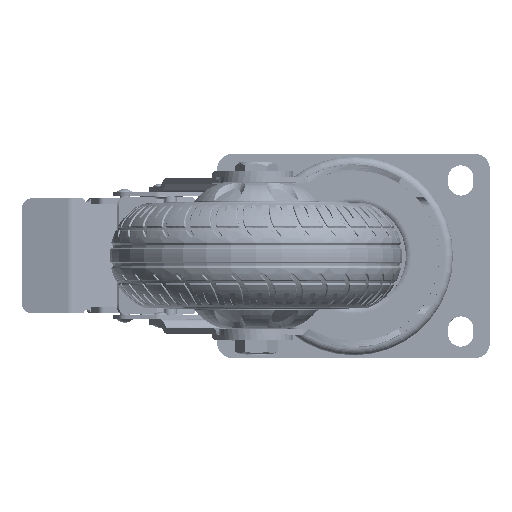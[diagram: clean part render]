
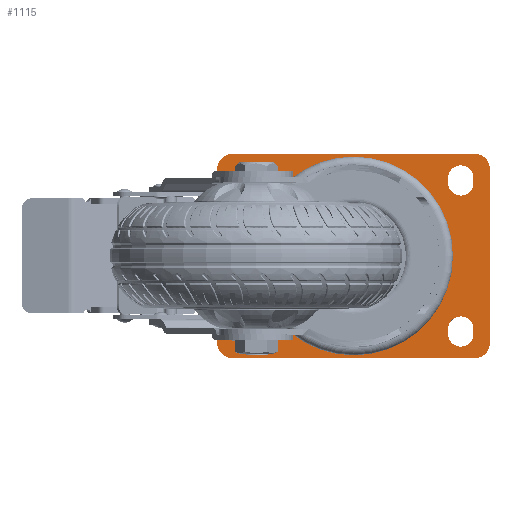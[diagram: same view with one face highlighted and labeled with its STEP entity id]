
A CAD part, top view. The second image highlights one B-rep face of the part: STEP entity #1115.
In plain terms, the highlighted planar face has unit normal (0, 0, 1).
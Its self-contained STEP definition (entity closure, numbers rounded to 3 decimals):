
#172=CARTESIAN_POINT('',(62.,-44.5,4.5));
#173=DIRECTION('',(0.,0.,1.));
#174=DIRECTION('',(0.,-1.,0.));
#175=AXIS2_PLACEMENT_3D('',#172,#173,#174);
#177=DIRECTION('',(1.,0.,0.));
#178=VECTOR('',#177,124.);
#179=CARTESIAN_POINT('',(-62.,-52.5,4.5));
#180=LINE('',#179,#178);
#181=CARTESIAN_POINT('',(-62.,-44.5,4.5));
#182=DIRECTION('',(0.,0.,1.));
#183=DIRECTION('',(-1.,0.,0.));
#184=AXIS2_PLACEMENT_3D('',#181,#182,#183);
#186=DIRECTION('',(0.,-1.,0.));
#187=VECTOR('',#186,89.);
#188=CARTESIAN_POINT('',(-70.,44.5,4.5));
#189=LINE('',#188,#187);
#190=CARTESIAN_POINT('',(-62.,44.5,4.5));
#191=DIRECTION('',(0.,0.,1.));
#192=DIRECTION('',(0.,1.,0.));
#193=AXIS2_PLACEMENT_3D('',#190,#191,#192);
#195=DIRECTION('',(-1.,0.,0.));
#196=VECTOR('',#195,124.);
#197=CARTESIAN_POINT('',(62.,52.5,4.5));
#198=LINE('',#197,#196);
#199=CARTESIAN_POINT('',(62.,44.5,4.5));
#200=DIRECTION('',(0.,0.,1.));
#201=DIRECTION('',(1.,0.,0.));
#202=AXIS2_PLACEMENT_3D('',#199,#200,#201);
#204=DIRECTION('',(0.,1.,0.));
#205=VECTOR('',#204,89.);
#206=CARTESIAN_POINT('',(70.,-44.5,4.5));
#207=LINE('',#206,#205);
#208=CARTESIAN_POINT('',(55.,40.,4.5));
#209=DIRECTION('',(0.,0.,-1.));
#210=DIRECTION('',(-1.,0.,0.));
#211=AXIS2_PLACEMENT_3D('',#208,#209,#210);
#213=DIRECTION('',(0.,1.,0.));
#214=VECTOR('',#213,2.5);
#215=CARTESIAN_POINT('',(48.5,37.5,4.5));
#216=LINE('',#215,#214);
#217=CARTESIAN_POINT('',(55.,37.5,4.5));
#218=DIRECTION('',(0.,0.,-1.));
#219=DIRECTION('',(1.,0.,0.));
#220=AXIS2_PLACEMENT_3D('',#217,#218,#219);
#222=DIRECTION('',(0.,-1.,0.));
#223=VECTOR('',#222,2.5);
#224=CARTESIAN_POINT('',(61.5,40.,4.5));
#225=LINE('',#224,#223);
#226=CARTESIAN_POINT('',(55.,-40.,4.5));
#227=DIRECTION('',(0.,0.,-1.));
#228=DIRECTION('',(1.,0.,0.));
#229=AXIS2_PLACEMENT_3D('',#226,#227,#228);
#231=DIRECTION('',(0.,-1.,0.));
#232=VECTOR('',#231,2.5);
#233=CARTESIAN_POINT('',(61.5,-37.5,4.5));
#234=LINE('',#233,#232);
#235=CARTESIAN_POINT('',(55.,-37.5,4.5));
#236=DIRECTION('',(0.,0.,-1.));
#237=DIRECTION('',(-1.,0.,0.));
#238=AXIS2_PLACEMENT_3D('',#235,#236,#237);
#240=DIRECTION('',(0.,1.,0.));
#241=VECTOR('',#240,2.5);
#242=CARTESIAN_POINT('',(48.5,-40.,4.5));
#243=LINE('',#242,#241);
#244=DIRECTION('',(0.,1.,0.));
#245=VECTOR('',#244,2.5);
#246=CARTESIAN_POINT('',(-61.5,-40.,4.5));
#247=LINE('',#246,#245);
#248=CARTESIAN_POINT('',(-55.,-40.,4.5));
#249=DIRECTION('',(0.,0.,-1.));
#250=DIRECTION('',(1.,0.,0.));
#251=AXIS2_PLACEMENT_3D('',#248,#249,#250);
#253=DIRECTION('',(0.,-1.,0.));
#254=VECTOR('',#253,2.5);
#255=CARTESIAN_POINT('',(-48.5,-37.5,4.5));
#256=LINE('',#255,#254);
#257=CARTESIAN_POINT('',(-55.,-37.5,4.5));
#258=DIRECTION('',(0.,0.,-1.));
#259=DIRECTION('',(-1.,0.,0.));
#260=AXIS2_PLACEMENT_3D('',#257,#258,#259);
#262=DIRECTION('',(0.,1.,0.));
#263=VECTOR('',#262,2.5);
#264=CARTESIAN_POINT('',(-61.5,37.5,4.5));
#265=LINE('',#264,#263);
#266=CARTESIAN_POINT('',(-55.,37.5,4.5));
#267=DIRECTION('',(0.,0.,-1.));
#268=DIRECTION('',(1.,0.,0.));
#269=AXIS2_PLACEMENT_3D('',#266,#267,#268);
#271=DIRECTION('',(0.,-1.,0.));
#272=VECTOR('',#271,2.5);
#273=CARTESIAN_POINT('',(-48.5,40.,4.5));
#274=LINE('',#273,#272);
#275=CARTESIAN_POINT('',(-55.,40.,4.5));
#276=DIRECTION('',(0.,0.,-1.));
#277=DIRECTION('',(-1.,0.,0.));
#278=AXIS2_PLACEMENT_3D('',#275,#276,#277);
#290=CARTESIAN_POINT('',(0.,0.,4.5));
#291=DIRECTION('',(0.,0.,1.));
#292=DIRECTION('',(1.,0.,0.));
#293=AXIS2_PLACEMENT_3D('',#290,#291,#292);
#295=CARTESIAN_POINT('',(0.,0.,4.5));
#296=DIRECTION('',(0.,0.,1.));
#297=DIRECTION('',(-1.,0.,0.));
#298=AXIS2_PLACEMENT_3D('',#295,#296,#297);
#714=CARTESIAN_POINT('',(62.,-52.5,4.5));
#715=CARTESIAN_POINT('',(70.,-44.5,4.5));
#716=VERTEX_POINT('',#714);
#717=VERTEX_POINT('',#715);
#718=CARTESIAN_POINT('',(70.,44.5,4.5));
#719=VERTEX_POINT('',#718);
#720=CARTESIAN_POINT('',(62.,52.5,4.5));
#721=VERTEX_POINT('',#720);
#722=CARTESIAN_POINT('',(-62.,52.5,4.5));
#723=VERTEX_POINT('',#722);
#724=CARTESIAN_POINT('',(-70.,44.5,4.5));
#725=VERTEX_POINT('',#724);
#726=CARTESIAN_POINT('',(-70.,-44.5,4.5));
#727=VERTEX_POINT('',#726);
#728=CARTESIAN_POINT('',(-62.,-52.5,4.5));
#729=VERTEX_POINT('',#728);
#730=CARTESIAN_POINT('',(48.5,40.,4.5));
#731=CARTESIAN_POINT('',(61.5,40.,4.5));
#732=VERTEX_POINT('',#730);
#733=VERTEX_POINT('',#731);
#734=CARTESIAN_POINT('',(61.5,37.5,4.5));
#735=VERTEX_POINT('',#734);
#736=CARTESIAN_POINT('',(48.5,37.5,4.5));
#737=VERTEX_POINT('',#736);
#738=CARTESIAN_POINT('',(61.5,-40.,4.5));
#739=CARTESIAN_POINT('',(48.5,-40.,4.5));
#740=VERTEX_POINT('',#738);
#741=VERTEX_POINT('',#739);
#742=CARTESIAN_POINT('',(48.5,-37.5,4.5));
#743=VERTEX_POINT('',#742);
#744=CARTESIAN_POINT('',(61.5,-37.5,4.5));
#745=VERTEX_POINT('',#744);
#746=CARTESIAN_POINT('',(-61.5,-40.,4.5));
#747=CARTESIAN_POINT('',(-61.5,-37.5,4.5));
#748=VERTEX_POINT('',#746);
#749=VERTEX_POINT('',#747);
#750=CARTESIAN_POINT('',(-48.5,-37.5,4.5));
#751=VERTEX_POINT('',#750);
#752=CARTESIAN_POINT('',(-48.5,-40.,4.5));
#753=VERTEX_POINT('',#752);
#754=CARTESIAN_POINT('',(-61.5,37.5,4.5));
#755=CARTESIAN_POINT('',(-61.5,40.,4.5));
#756=VERTEX_POINT('',#754);
#757=VERTEX_POINT('',#755);
#758=CARTESIAN_POINT('',(-48.5,40.,4.5));
#759=VERTEX_POINT('',#758);
#760=CARTESIAN_POINT('',(-48.5,37.5,4.5));
#761=VERTEX_POINT('',#760);
#818=CARTESIAN_POINT('',(43.1,0.,4.5));
#819=CARTESIAN_POINT('',(-43.1,0.,4.5));
#820=VERTEX_POINT('',#818);
#821=VERTEX_POINT('',#819);
#1054=CARTESIAN_POINT('',(0.,0.,4.5));
#1055=DIRECTION('',(0.,0.,1.));
#1056=DIRECTION('',(1.,0.,0.));
#1057=AXIS2_PLACEMENT_3D('',#1054,#1055,#1056);
#1058=PLANE('',#1057);
#1059=ORIENTED_EDGE('',*,*,#950,.F.);
#1060=ORIENTED_EDGE('',*,*,#965,.F.);
#1061=ORIENTED_EDGE('',*,*,#979,.F.);
#1062=ORIENTED_EDGE('',*,*,#993,.F.);
#1063=ORIENTED_EDGE('',*,*,#1007,.F.);
#1064=ORIENTED_EDGE('',*,*,#1021,.F.);
#1065=ORIENTED_EDGE('',*,*,#1035,.F.);
#1066=ORIENTED_EDGE('',*,*,#1048,.F.);
#1067=EDGE_LOOP('',(#1059,#1060,#1061,#1062,#1063,#1064,#1065,#1066));
#1068=FACE_OUTER_BOUND('',#1067,.F.);
#1070=ORIENTED_EDGE('',*,*,#1069,.F.);
#1072=ORIENTED_EDGE('',*,*,#1071,.F.);
#1074=ORIENTED_EDGE('',*,*,#1073,.F.);
#1076=ORIENTED_EDGE('',*,*,#1075,.F.);
#1077=EDGE_LOOP('',(#1070,#1072,#1074,#1076));
#1078=FACE_BOUND('',#1077,.F.);
#1080=ORIENTED_EDGE('',*,*,#1079,.F.);
#1082=ORIENTED_EDGE('',*,*,#1081,.F.);
#1084=ORIENTED_EDGE('',*,*,#1083,.F.);
#1086=ORIENTED_EDGE('',*,*,#1085,.F.);
#1087=EDGE_LOOP('',(#1080,#1082,#1084,#1086));
#1088=FACE_BOUND('',#1087,.F.);
#1090=ORIENTED_EDGE('',*,*,#1089,.F.);
#1092=ORIENTED_EDGE('',*,*,#1091,.F.);
#1094=ORIENTED_EDGE('',*,*,#1093,.F.);
#1096=ORIENTED_EDGE('',*,*,#1095,.F.);
#1097=EDGE_LOOP('',(#1090,#1092,#1094,#1096));
#1098=FACE_BOUND('',#1097,.F.);
#1100=ORIENTED_EDGE('',*,*,#1099,.F.);
#1102=ORIENTED_EDGE('',*,*,#1101,.F.);
#1104=ORIENTED_EDGE('',*,*,#1103,.F.);
#1106=ORIENTED_EDGE('',*,*,#1105,.F.);
#1107=EDGE_LOOP('',(#1100,#1102,#1104,#1106));
#1108=FACE_BOUND('',#1107,.F.);
#1110=ORIENTED_EDGE('',*,*,#1109,.T.);
#1112=ORIENTED_EDGE('',*,*,#1111,.T.);
#1113=EDGE_LOOP('',(#1110,#1112));
#1114=FACE_BOUND('',#1113,.F.);
#176=CIRCLE('',#175,8.);
#185=CIRCLE('',#184,8.);
#194=CIRCLE('',#193,8.);
#203=CIRCLE('',#202,8.);
#212=CIRCLE('',#211,6.5);
#221=CIRCLE('',#220,6.5);
#230=CIRCLE('',#229,6.5);
#239=CIRCLE('',#238,6.5);
#252=CIRCLE('',#251,6.5);
#261=CIRCLE('',#260,6.5);
#270=CIRCLE('',#269,6.5);
#279=CIRCLE('',#278,6.5);
#294=CIRCLE('',#293,43.1);
#299=CIRCLE('',#298,43.1);
#950=EDGE_CURVE('',#716,#717,#176,.T.);
#965=EDGE_CURVE('',#729,#716,#180,.T.);
#979=EDGE_CURVE('',#727,#729,#185,.T.);
#993=EDGE_CURVE('',#725,#727,#189,.T.);
#1007=EDGE_CURVE('',#723,#725,#194,.T.);
#1021=EDGE_CURVE('',#721,#723,#198,.T.);
#1035=EDGE_CURVE('',#719,#721,#203,.T.);
#1048=EDGE_CURVE('',#717,#719,#207,.T.);
#1069=EDGE_CURVE('',#732,#733,#212,.T.);
#1071=EDGE_CURVE('',#737,#732,#216,.T.);
#1073=EDGE_CURVE('',#735,#737,#221,.T.);
#1075=EDGE_CURVE('',#733,#735,#225,.T.);
#1079=EDGE_CURVE('',#740,#741,#230,.T.);
#1081=EDGE_CURVE('',#745,#740,#234,.T.);
#1083=EDGE_CURVE('',#743,#745,#239,.T.);
#1085=EDGE_CURVE('',#741,#743,#243,.T.);
#1089=EDGE_CURVE('',#748,#749,#247,.T.);
#1091=EDGE_CURVE('',#753,#748,#252,.T.);
#1093=EDGE_CURVE('',#751,#753,#256,.T.);
#1095=EDGE_CURVE('',#749,#751,#261,.T.);
#1099=EDGE_CURVE('',#756,#757,#265,.T.);
#1101=EDGE_CURVE('',#761,#756,#270,.T.);
#1103=EDGE_CURVE('',#759,#761,#274,.T.);
#1105=EDGE_CURVE('',#757,#759,#279,.T.);
#1109=EDGE_CURVE('',#820,#821,#294,.T.);
#1111=EDGE_CURVE('',#821,#820,#299,.T.);
#1115=ADVANCED_FACE('',(#1068,#1078,#1088,#1098,#1108,#1114),#1058,.T.);
